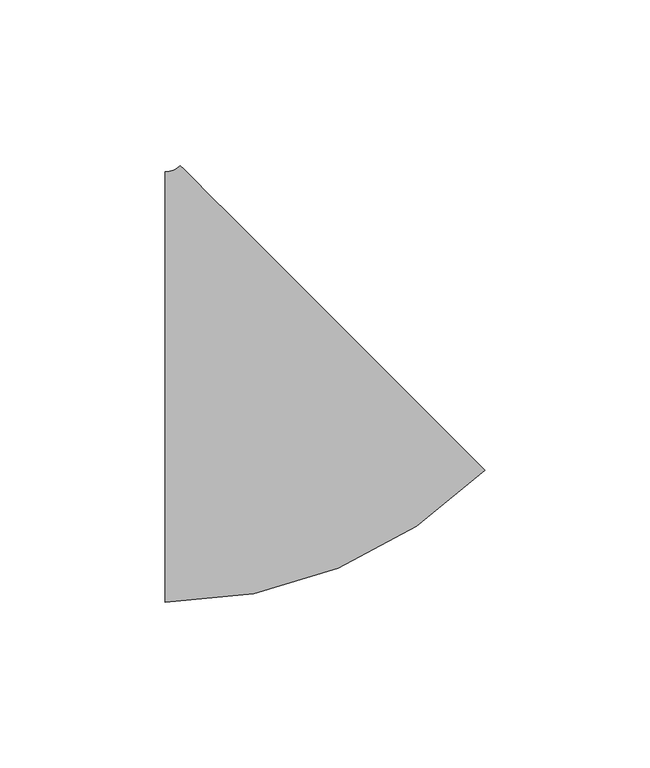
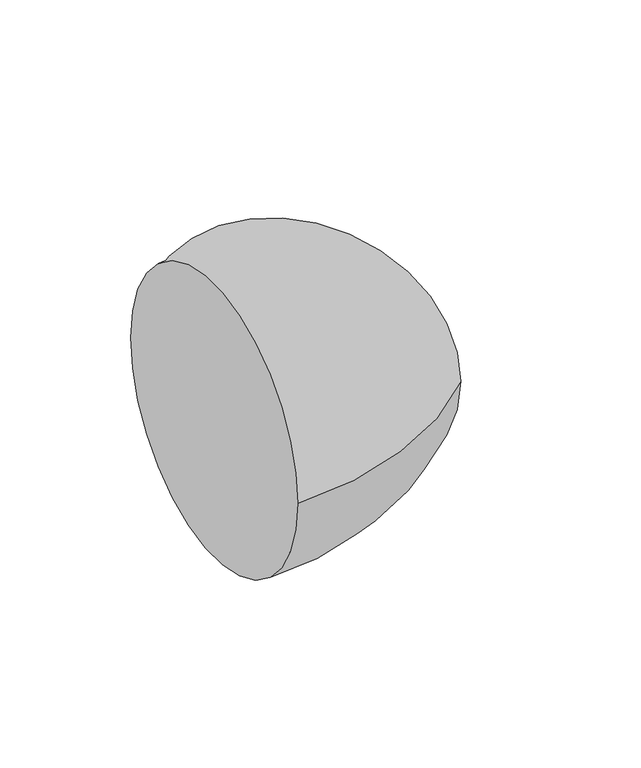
"""IFC4 building model written with IfcOpenShell, lengths in millimetres: pipe fitting geometry, M_Codo - Genérico : Estándar."""

from ifc_helpers import new_model, si_unit, point, frame, origin, place, context, project, spatial, circle_curve, ellipse_curve, trimmed, source, transform, mapped, element, save
from ifc_brep_helpers import plane_surface, revolved_surface, advanced_brep


def pipe_fitting_6566bc79(model_context):
    return source(origin(), model_context, "Body", "AdvancedBrep", [
        advanced_brep(
        [(-29.5963518, -65.0875, 0.0), (-29.5963518, 65.0875, 0.0), (66.9551734, -25.0864795, 0.0), (-25.1055832, 66.9480126, 0.0)],
        [
            (0, 1, circle_curve(frame((-29.5963518, 0.0, 0.0), z_axis=(-1.0, 0.0, 0.0), x_axis=(0.0, 1.0, 0.0)), 65.0875)),
            (1, 0, circle_curve(frame((-29.5963518, 0.0, 0.0), z_axis=(-1.0, 0.0, 0.0), x_axis=(0.0, 1.0, 0.0)), 65.0875)),
            (2, 3, circle_curve(frame((20.9247951, 20.9307665, 0.0), z_axis=(0.7070058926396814, 0.7072076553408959, 0.0), x_axis=(-0.7072076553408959, 0.7070058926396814, 0.0)), 65.0875)),
            (3, 2, circle_curve(frame((20.9247951, 20.9307665, 0.0), z_axis=(0.7070058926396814, 0.7072076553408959, 0.0), x_axis=(-0.7072076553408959, 0.7070058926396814, 0.0)), 65.0875)),
            (3, 1, circle_curve(frame((-29.5963518, 71.4375, 0.0), z_axis=(0.0, 0.0, -1.0), x_axis=(0.0, -1.0, 0.0)), 6.35)),
            (0, 2, circle_curve(frame((-29.5963518, 71.4375, 0.0), z_axis=(0.0, 0.0, 1.0), x_axis=(0.0, -1.0, 0.0)), 136.525)),
        ],
        [
            plane_surface(frame((-29.5963518, 0.0, 0.0), z_axis=(-1.0, 0.0, 0.0), x_axis=(0.0, 0.0, 1.0))),
            plane_surface(frame((20.9247951, 20.9307665, 0.0), z_axis=(0.7070058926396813, 0.707207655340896, 0.0), x_axis=(0.0, 0.0, 1.0))),
            revolved_surface(trimmed(ellipse_curve(frame((-29.5963518, 0.0, 0.0), z_axis=(-1.0, 0.0, 0.0), x_axis=(0.0, 1.0, 0.0)), 65.0875, 65.0875), [point((-29.5963518, -65.0875, 0.0))], [point((-29.5963518, 65.0875, 0.0))], True, "CARTESIAN"), (-29.5963518, 71.4375, 0.0), (0.0, 0.0, 1.0)),
            revolved_surface(trimmed(ellipse_curve(frame((-29.5963518, 0.0, 0.0), z_axis=(-1.0, 0.0, 0.0), x_axis=(0.0, 1.0, 0.0)), 65.0875, 65.0875), [point((-29.5963518, 65.0875, 0.0))], [point((-29.5963518, -65.0875, 0.0))], True, "CARTESIAN"), (-29.5963518, 71.4375, 0.0), (0.0, 0.0, 1.0)),
        ],
        [
            (0, [[1, 2]]),
            (1, [[3, 4]]),
            (2, [[5, -1, 6, -4]]),
            (3, [[-6, -2, -5, -3]]),
        ],
    ),
    ])


if __name__ == "__main__":
    model = new_model("IFC4")
    model_context = context("Model", 3, world=origin())
    ifc_project = project(units=[si_unit("LENGTHUNIT", "METRE", prefix="MILLI")], contexts=[model_context])
    site = spatial("IfcSite", under=ifc_project)
    building = spatial("IfcBuilding", under=site)
    placement = place(None, origin())
    pipe_fitting_shape = pipe_fitting_6566bc79(model_context)
    element("IfcPipeFitting", 1, ObjectType="M_Codo - Genérico : Estándar", at=placement, inside=building, context=model_context, shape_type="MappedRepresentation", body=[
        mapped(pipe_fitting_shape, transform((0.0, 0.0, 0.0), x_axis=(1.0, 0.0, 0.0), y_axis=(0.0, 1.0, 0.0), z_axis=(0.0, 0.0, 1.0))),
    ])
    save(model, "model.ifc")
